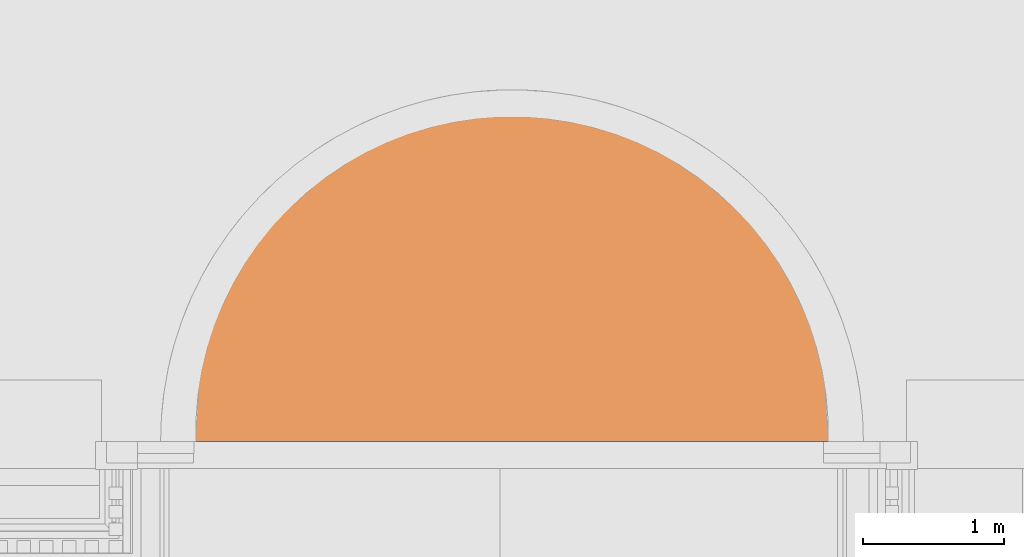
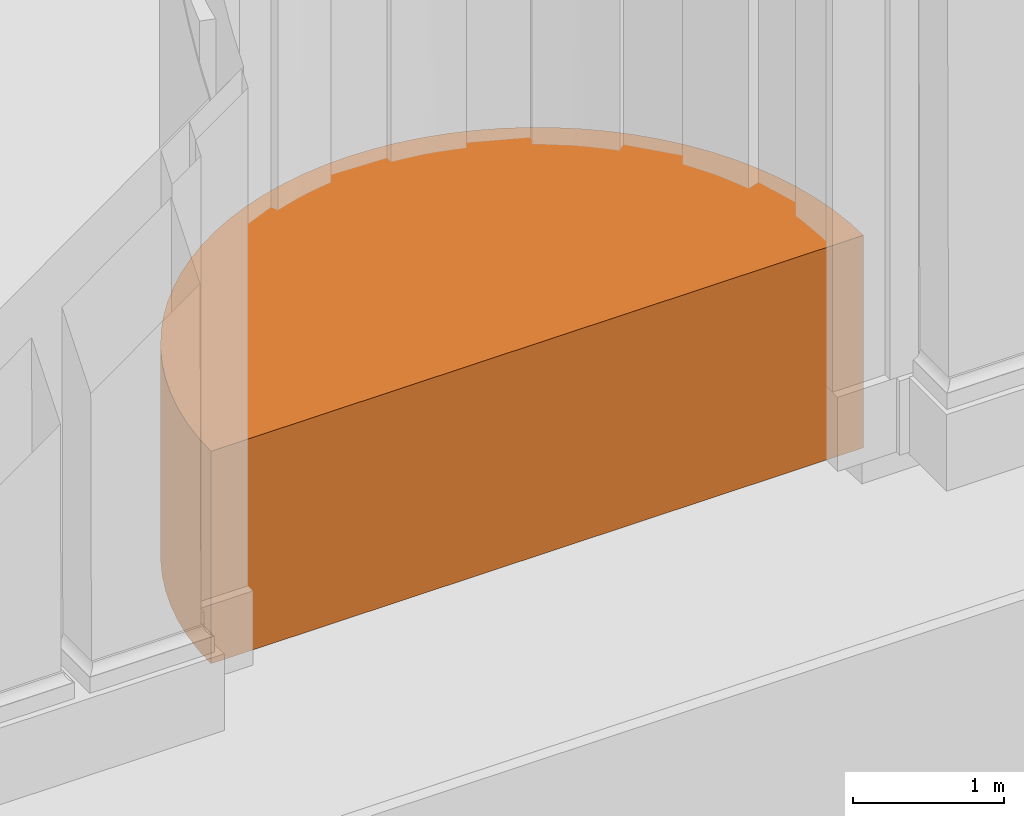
# One storey, part 32 of 44: 1 proxy.
"""IFC2X3 building model written with IfcOpenShell, lengths in metres."""

from ifc_helpers import new_model, entity, si_unit, converted_unit, derived_unit, direction, frame, origin, place, context, subcontext, project, spatial, faceted_brep, material, element, save


model = new_model("IFC2X3")

# Units and contexts
model_context = context("Model", 3, precision=1e-05, world=origin(), true_north=direction((6.12303176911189e-17, 1.0)))
body_context = subcontext(model_context, "Body", "Model", "MODEL_VIEW")
ifc_project = project(units=[si_unit("LENGTHUNIT", "METRE"), si_unit("AREAUNIT", "SQUARE_METRE"), si_unit("VOLUMEUNIT", "CUBIC_METRE"), converted_unit("PLANEANGLEUNIT", "DEGREE", entity("IfcRatioMeasure", 0.0174532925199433), si_unit("PLANEANGLEUNIT", "RADIAN"), dimensions=[0, 0, 0, 0, 0, 0, 0]), si_unit("MASSUNIT", "GRAM", prefix="KILO"), derived_unit("MASSDENSITYUNIT", [(si_unit("MASSUNIT", "GRAM", prefix="KILO"), 1), (si_unit("LENGTHUNIT", "METRE"), -3)]), si_unit("TIMEUNIT", "SECOND"), si_unit("FREQUENCYUNIT", "HERTZ"), si_unit("THERMODYNAMICTEMPERATUREUNIT", "DEGREE_CELSIUS"), derived_unit("THERMALTRANSMITTANCEUNIT", [(si_unit("MASSUNIT", "GRAM", prefix="KILO"), 1), (si_unit("THERMODYNAMICTEMPERATUREUNIT", "KELVIN"), -1), (si_unit("TIMEUNIT", "SECOND"), -3)]), derived_unit("VOLUMETRICFLOWRATEUNIT", [(si_unit("LENGTHUNIT", "METRE"), 3), (si_unit("TIMEUNIT", "SECOND"), -1)]), si_unit("ELECTRICCURRENTUNIT", "AMPERE"), si_unit("ELECTRICVOLTAGEUNIT", "VOLT"), si_unit("POWERUNIT", "WATT"), si_unit("FORCEUNIT", "NEWTON", prefix="KILO"), si_unit("ILLUMINANCEUNIT", "LUX"), si_unit("LUMINOUSFLUXUNIT", "LUMEN"), si_unit("LUMINOUSINTENSITYUNIT", "CANDELA"), derived_unit("USERDEFINED", [(si_unit("MASSUNIT", "GRAM", prefix="KILO"), -1), (si_unit("LENGTHUNIT", "METRE"), -2), (si_unit("TIMEUNIT", "SECOND"), 3), (si_unit("LUMINOUSFLUXUNIT", "LUMEN"), 1)]), derived_unit("LINEARVELOCITYUNIT", [(si_unit("LENGTHUNIT", "METRE"), 1), (si_unit("TIMEUNIT", "SECOND"), -1)]), si_unit("PRESSUREUNIT", "PASCAL"), derived_unit("USERDEFINED", [(si_unit("LENGTHUNIT", "METRE"), -2), (si_unit("MASSUNIT", "GRAM", prefix="KILO"), 1), (si_unit("TIMEUNIT", "SECOND"), -2)])], contexts=[model_context])

# Site, building, storey
site_placement = place(None, origin())
site = spatial("IfcSite", under=ifc_project, at=site_placement, Name="Default", CompositionType="ELEMENT")
building_placement = place(site_placement, origin())
building = spatial("IfcBuilding", under=site, at=building_placement, CompositionType="ELEMENT")
storey_placement = place(building_placement, origin())
storey = spatial("IfcBuildingStorey", under=building, at=storey_placement, Name="Livello 1", CompositionType="ELEMENT", Elevation=0.0)

# Proxy
ifc_material = material(Name="Intonaco Liscio")
proxy_placement = place(storey_placement, frame((-2.49178939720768, 1.45177746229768, 13.3635840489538)))
element("IfcBuildingElementProxy", 1, at=proxy_placement, inside=storey, material=ifc_material, Name="Stratigrafia", context=body_context, shape_type="Brep", body=[
    faceted_brep([(4.90032770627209, 0.70592666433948, 0.0), (4.94446243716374, 0.53300849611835, 0.0), (4.97614887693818, 0.357382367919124, 0.0), (4.99522555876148, 0.179943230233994, 0.0), (5.00159527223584, 0.00159527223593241, 0.0), (2.50159527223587, 0.00159527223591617, 0.0), (0.0015952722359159, 0.00159527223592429, 0.0), (0.00796498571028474, 0.179943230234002, 0.0), (0.0270416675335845, 0.357382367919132, 0.0), (0.0587281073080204, 0.533008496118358, 0.0), (0.102862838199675, 0.705926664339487, 0.0), (0.15922095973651, 0.875255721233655, 0.0), (0.227515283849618, 1.04013280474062, 0.0), (0.307397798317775, 1.19971773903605, 0.0), (0.398461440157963, 1.3531973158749, 0.0), (0.500242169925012, 1.49978943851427, 0.0), (0.612221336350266, 1.63874710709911, 0.0), (0.733828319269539, 1.76936222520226, 0.0), (0.864443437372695, 1.89096920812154, 0.0), (1.00340110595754, 2.00294837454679, 0.0), (1.14999322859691, 2.10472910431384, 0.0), (1.30347280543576, 2.19579274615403, 0.0), (1.46305773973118, 2.27567526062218, 0.0), (1.62793482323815, 2.34396958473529, 0.0), (1.79726388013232, 2.40032770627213, 0.0), (1.97018204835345, 2.44446243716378, 0.0), (2.14580817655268, 2.47614887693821, 0.0), (2.32324731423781, 2.49522555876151, 0.0), (2.50159527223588, 2.50159527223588, 0.0), (2.67994323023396, 2.49522555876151, 0.0), (2.85738236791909, 2.47614887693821, 0.0), (3.03300849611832, 2.44446243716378, 0.0), (3.20592666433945, 2.40032770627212, 0.0), (3.37525572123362, 2.34396958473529, 0.0), (3.54013280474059, 2.27567526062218, 0.0), (3.69971773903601, 2.19579274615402, 0.0), (3.85319731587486, 2.10472910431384, 0.0), (3.99978943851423, 2.00294837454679, 0.0), (4.13874710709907, 1.89096920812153, 0.0), (4.26936222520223, 1.76936222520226, 0.0), (4.3909692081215, 1.6387471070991, 0.0), (4.50294837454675, 1.49978943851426, 0.0), (4.6047291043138, 1.35319731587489, 0.0), (4.69579274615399, 1.19971773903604, 0.0), (4.77567526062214, 1.04013280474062, 0.0), (4.84396958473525, 0.875255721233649, 0.0), (2.50159527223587, 0.00159527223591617, 1.72141704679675), (5.00159527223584, 0.00159527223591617, 1.72141704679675), (4.99522555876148, 0.179943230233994, 1.72141704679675), (4.97614887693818, 0.357382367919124, 1.72141704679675), (4.94446243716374, 0.53300849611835, 1.72141704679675), (4.90032770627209, 0.70592666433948, 1.72141704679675), (4.84396958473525, 0.875255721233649, 1.72141704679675), (4.77567526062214, 1.04013280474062, 1.72141704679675), (4.69579274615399, 1.19971773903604, 1.72141704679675), (4.6047291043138, 1.35319731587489, 1.72141704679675), (4.50294837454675, 1.49978943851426, 1.72141704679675), (4.3909692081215, 1.6387471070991, 1.72141704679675), (4.26936222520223, 1.76936222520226, 1.72141704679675), (4.13874710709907, 1.89096920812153, 1.72141704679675), (3.99978943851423, 2.00294837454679, 1.72141704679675), (3.85319731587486, 2.10472910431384, 1.72141704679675), (3.69971773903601, 2.19579274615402, 1.72141704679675), (3.54013280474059, 2.27567526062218, 1.72141704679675), (3.37525572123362, 2.34396958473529, 1.72141704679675), (3.20592666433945, 2.40032770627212, 1.72141704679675), (3.03300849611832, 2.44446243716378, 1.72141704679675), (2.85738236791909, 2.47614887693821, 1.72141704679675), (2.67994323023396, 2.49522555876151, 1.72141704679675), (2.50159527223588, 2.50159527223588, 1.72141704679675), (2.32324731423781, 2.49522555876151, 1.72141704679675), (2.14580817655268, 2.47614887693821, 1.72141704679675), (1.97018204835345, 2.44446243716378, 1.72141704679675), (1.79726388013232, 2.40032770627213, 1.72141704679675), (1.62793482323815, 2.34396958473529, 1.72141704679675), (1.46305773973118, 2.27567526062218, 1.72141704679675), (1.30347280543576, 2.19579274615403, 1.72141704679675), (1.14999322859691, 2.10472910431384, 1.72141704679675), (1.00340110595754, 2.00294837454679, 1.72141704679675), (0.864443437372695, 1.89096920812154, 1.72141704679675), (0.733828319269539, 1.76936222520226, 1.72141704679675), (0.612221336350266, 1.63874710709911, 1.72141704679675), (0.500242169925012, 1.49978943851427, 1.72141704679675), (0.398461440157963, 1.3531973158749, 1.72141704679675), (0.307397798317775, 1.19971773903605, 1.72141704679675), (0.227515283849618, 1.04013280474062, 1.72141704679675), (0.15922095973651, 0.875255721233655, 1.72141704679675), (0.102862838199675, 0.705926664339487, 1.72141704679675), (0.0587281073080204, 0.533008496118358, 1.72141704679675), (0.0270416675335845, 0.357382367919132, 1.72141704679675), (0.00796498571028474, 0.179943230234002, 1.72141704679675), (0.0015952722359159, 0.00159527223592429, 1.72141704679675)], [[[0, 1, 2, 3, 4, 5, 6, 7, 8, 9, 10, 11, 12, 13, 14, 15, 16, 17, 18, 19, 20, 21, 22, 23, 24, 25, 26, 27, 28, 29, 30, 31, 32, 33, 34, 35, 36, 37, 38, 39, 40, 41, 42, 43, 44, 45]], [[46, 47, 48, 49, 50, 51, 52, 53, 54, 55, 56, 57, 58, 59, 60, 61, 62, 63, 64, 65, 66, 67, 68, 69, 70, 71, 72, 73, 74, 75, 76, 77, 78, 79, 80, 81, 82, 83, 84, 85, 86, 87, 88, 89, 90, 91]], [[46, 91, 6, 5, 4, 47]], [[54, 53, 44, 43]], [[56, 55, 42, 41]], [[43, 42, 55, 54]], [[45, 44, 53, 52]], [[3, 2, 49, 48]], [[4, 3, 48, 47]], [[45, 52, 51, 0]], [[51, 50, 1, 0]], [[2, 1, 50, 49]], [[41, 40, 57, 56]], [[64, 63, 34, 33]], [[66, 65, 32, 31]], [[33, 32, 65, 64]], [[67, 66, 31, 30]], [[59, 58, 39, 38]], [[60, 59, 38, 37]], [[36, 35, 62, 61]], [[37, 36, 61, 60]], [[63, 62, 35, 34]], [[40, 39, 58, 57]], [[29, 68, 67, 30]], [[69, 68, 29, 28]], [[21, 76, 75, 22]], [[19, 78, 77, 20]], [[77, 76, 21, 20]], [[18, 79, 78, 19]], [[71, 70, 27, 26]], [[25, 72, 71, 26]], [[74, 73, 24, 23]], [[25, 24, 73, 72]], [[22, 75, 74, 23]], [[80, 79, 18, 17]], [[87, 86, 11, 10]], [[89, 88, 9, 8]], [[10, 9, 88, 87]], [[90, 89, 8, 7]], [[82, 81, 16, 15]], [[83, 82, 15, 14]], [[13, 12, 85, 84]], [[13, 84, 83, 14]], [[86, 85, 12, 11]], [[17, 16, 81, 80]], [[91, 90, 7, 6]], [[70, 69, 28, 27]]]),
])

save(model, "model.ifc")
